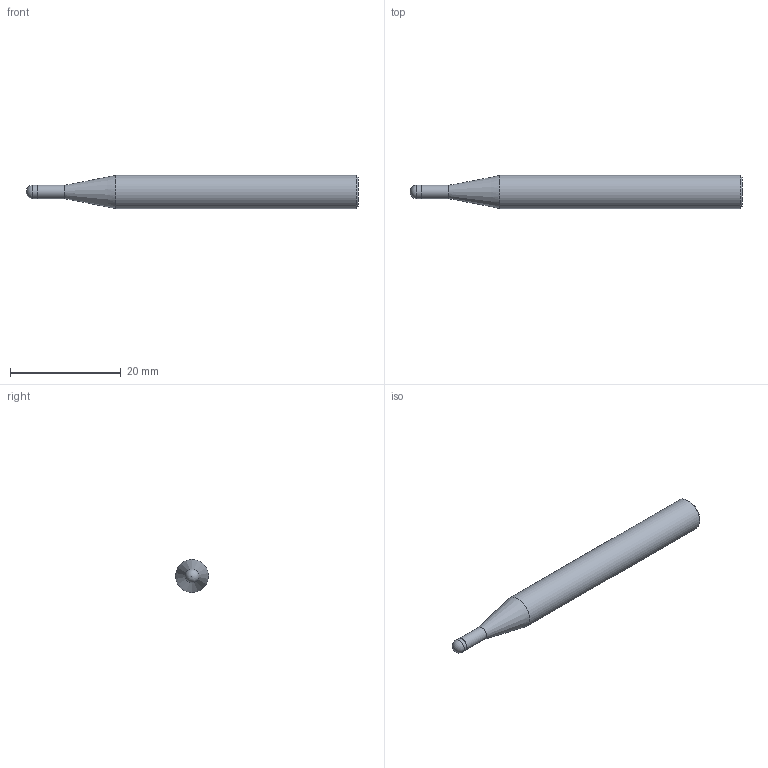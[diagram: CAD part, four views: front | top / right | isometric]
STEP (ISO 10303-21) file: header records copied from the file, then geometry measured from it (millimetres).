
FILE_DESCRIPTION(/* description */ (''),/* implementation_level */ '2;1');
FILE_NAME(/* name */ 'HSXB2025 0660.stp',/* time_stamp */ '2026-08-01T16:33:58+08:00',/* author */ (''),/* organization */ (''),/* preprocessor_version */ 'ST-DEVELOPER v16',/* originating_system */ 'SIEMENS PLM Software NX 10.0',/* authorisation */ '');
FILE_SCHEMA (('CONFIG_CONTROL_DESIGN'));
Length unit declared in the file: millimetre
Products named in the file (1): HSXB2025 0660_dxf
Bounding box: 60 x 6 x 6 mm (x, y, z)
Volume: 1402.4 mm3; surface area: 1036.6 mm2
Topology: 2 solids, 2 shells, 9 faces, 15 edges, 9 vertices
Faces by surface type: plane 3, cylinder 3, cone 2, sphere 1
Full cylindrical faces by diameter (mm): 2.4 x1, 2.5 x1, 6 x1
Entity records: 246 total; most frequent: DIRECTION 34, CARTESIAN_POINT 24, AXIS2_PLACEMENT_3D 17, EDGE_LOOP 14, ORIENTED_EDGE 14, FACE_BOUND 10, ADVANCED_FACE 9, PERSON_AND_ORGANIZATION 7
